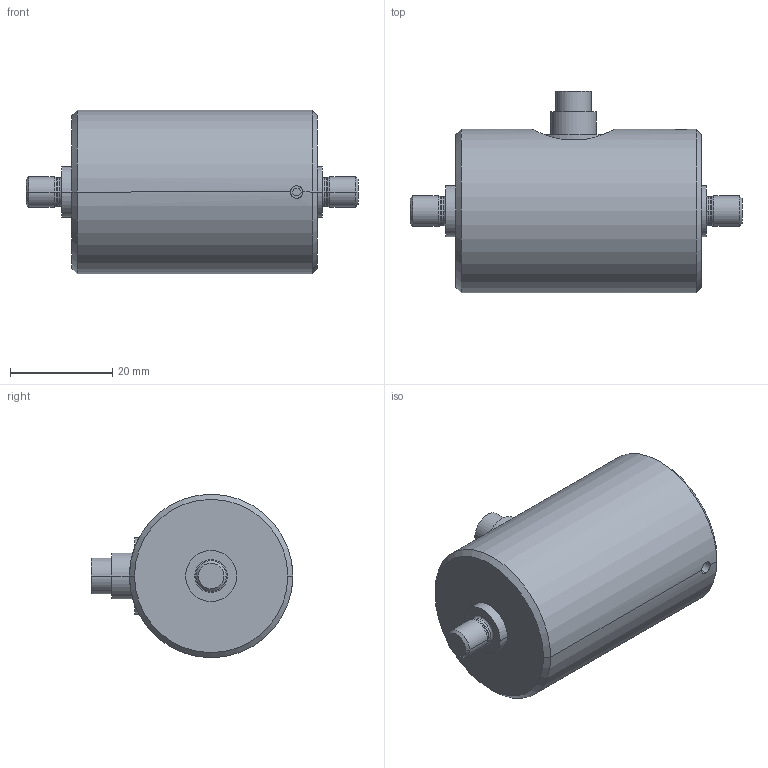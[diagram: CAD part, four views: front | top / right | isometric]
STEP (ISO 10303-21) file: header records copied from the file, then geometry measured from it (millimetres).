
FILE_DESCRIPTION(('STEP AP214'),'1');
FILE_NAME('burster_8625-4050_cx6zwdv6xifqtthu11vjsnvhk.stp','2017-04-20T16:07:06',('TraceParts'),('TraceParts S.A.'),'Spatial InterOp 3D',' ',' ');
FILE_SCHEMA(('automotive_design'));
Length unit declared in the file: millimetre
Products named in the file (1): burster_8625-4050_cx6zwdv6xifqtthu11vjsnvhk
Bounding box: 65 x 39.5 x 32 mm (x, y, z)
Volume: 39185 mm3; surface area: 7198.2 mm2
Topology: 1 solids, 1 shells, 79 faces, 187 edges, 120 vertices
Faces by surface type: plane 27, cylinder 26, cone 12, torus 10, bspline 4
Entity records: 3429 total; most frequent: CARTESIAN_POINT 909, DIRECTION 411, ORIENTED_EDGE 374, EDGE_CURVE 187, AXIS2_PLACEMENT_3D 166, VERTEX_POINT 120, CIRCLE 90, EDGE_LOOP 89
